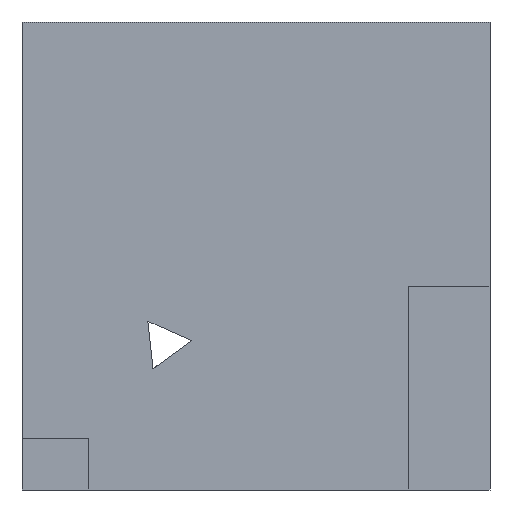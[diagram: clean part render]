
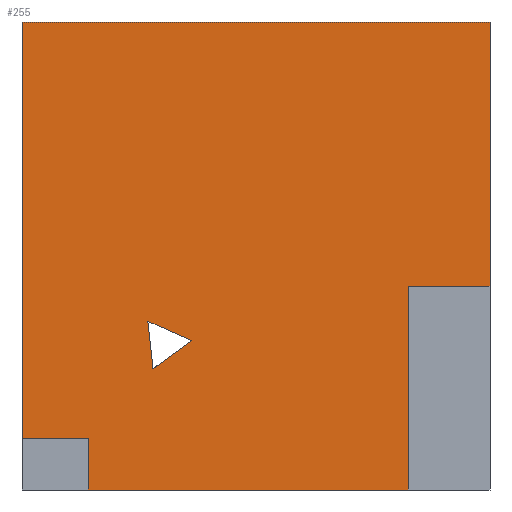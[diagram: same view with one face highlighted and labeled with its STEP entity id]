
A CAD part, front view. The second image highlights one B-rep face of the part: STEP entity #255.
In plain terms, the highlighted planar face has unit normal (0, -1, 0).
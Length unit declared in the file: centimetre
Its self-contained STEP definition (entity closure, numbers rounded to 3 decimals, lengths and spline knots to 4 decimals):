
#2 = CARTESIAN_POINT ( 'NONE',  ( 141.4676, 0., 0. ) ) ;
#27 = VECTOR ( 'NONE', #434, 100. ) ;
#34 = DIRECTION ( 'NONE',  ( -1., 0., 0. ) ) ;
#45 = VECTOR ( 'NONE', #34, 100. ) ;
#46 = VERTEX_POINT ( 'NONE', #860 ) ;
#66 = VECTOR ( 'NONE', #334, 100. ) ;
#96 = CARTESIAN_POINT ( 'NONE',  ( 0., 0., 1000. ) ) ;
#98 = CARTESIAN_POINT ( 'NONE',  ( 1000., 0., 1000. ) ) ;
#111 = VECTOR ( 'NONE', #829, 100. ) ;
#117 = CARTESIAN_POINT ( 'NONE',  ( 268.936, 0., 360.6865 ) ) ;
#118 = CARTESIAN_POINT ( 'NONE',  ( 0., 0., 110.0055 ) ) ;
#123 = DIRECTION ( 'NONE',  ( 1., 0., 0. ) ) ;
#126 = ORIENTED_EDGE ( 'NONE', *, *, #594, .T. ) ;
#138 = EDGE_CURVE ( 'NONE', #297, #145, #640, .T. ) ;
#145 = VERTEX_POINT ( 'NONE', #636 ) ;
#152 = ORIENTED_EDGE ( 'NONE', *, *, #727, .T. ) ;
#161 = DIRECTION ( 'NONE',  ( 0.808, 0., 0.59 ) ) ;
#198 = CARTESIAN_POINT ( 'NONE',  ( 0., 0., 1000. ) ) ;
#213 = CARTESIAN_POINT ( 'NONE',  ( 268.936, 0., 360.6865 ) ) ;
#220 = CARTESIAN_POINT ( 'NONE',  ( 0., 0., 1000. ) ) ;
#234 = FACE_OUTER_BOUND ( 'NONE', #629, .T. ) ;
#255 = ADVANCED_FACE ( 'NONE', ( #644, #234 ), #787, .F. ) ;
#262 = CARTESIAN_POINT ( 'NONE',  ( 279.872, 0., 258.806 ) ) ;
#267 = VERTEX_POINT ( 'NONE', #409 ) ;
#297 = VERTEX_POINT ( 'NONE', #262 ) ;
#304 = LINE ( 'NONE', #944, #763 ) ;
#314 = VECTOR ( 'NONE', #989, 100. ) ;
#334 = DIRECTION ( 'NONE',  ( 0., 0., 1. ) ) ;
#341 = VECTOR ( 'NONE', #494, 100. ) ;
#348 = CARTESIAN_POINT ( 'NONE',  ( 825.4087, 0., 435.6288 ) ) ;
#355 = EDGE_CURVE ( 'NONE', #776, #600, #574, .T. ) ;
#360 = ORIENTED_EDGE ( 'NONE', *, *, #717, .F. ) ;
#372 = EDGE_CURVE ( 'NONE', #770, #297, #970, .T. ) ;
#377 = VECTOR ( 'NONE', #1027, 100. ) ;
#388 = ORIENTED_EDGE ( 'NONE', *, *, #544, .F. ) ;
#389 = LINE ( 'NONE', #706, #377 ) ;
#409 = CARTESIAN_POINT ( 'NONE',  ( 141.4676, 0., 110.0055 ) ) ;
#416 = DIRECTION ( 'NONE',  ( 0., 0., 1. ) ) ;
#417 = ORIENTED_EDGE ( 'NONE', *, *, #1016, .F. ) ;
#424 = CARTESIAN_POINT ( 'NONE',  ( 0., 0., 0. ) ) ;
#432 = EDGE_CURVE ( 'NONE', #921, #267, #898, .T. ) ;
#434 = DIRECTION ( 'NONE',  ( 0.107, 0., -0.994 ) ) ;
#440 = CARTESIAN_POINT ( 'NONE',  ( 1000., 0., 435.6288 ) ) ;
#460 = AXIS2_PLACEMENT_3D ( 'NONE', #220, #888, #416 ) ;
#468 = EDGE_CURVE ( 'NONE', #145, #770, #559, .T. ) ;
#478 = EDGE_LOOP ( 'NONE', ( #911, #495, #838 ) ) ;
#494 = DIRECTION ( 'NONE',  ( 0., 0., -1. ) ) ;
#495 = ORIENTED_EDGE ( 'NONE', *, *, #372, .F. ) ;
#498 = CARTESIAN_POINT ( 'NONE',  ( 362.6351, 0., 319.2172 ) ) ;
#504 = CARTESIAN_POINT ( 'NONE',  ( 825.4087, 0., 435.6288 ) ) ;
#537 = ORIENTED_EDGE ( 'NONE', *, *, #577, .F. ) ;
#544 = EDGE_CURVE ( 'NONE', #942, #958, #677, .T. ) ;
#559 = LINE ( 'NONE', #498, #920 ) ;
#574 = LINE ( 'NONE', #98, #341 ) ;
#577 = EDGE_CURVE ( 'NONE', #267, #46, #751, .T. ) ;
#594 = EDGE_CURVE ( 'NONE', #921, #958, #837, .T. ) ;
#600 = VERTEX_POINT ( 'NONE', #440 ) ;
#629 = EDGE_LOOP ( 'NONE', ( #152, #537, #675, #126, #388, #360, #934, #417 ) ) ;
#636 = CARTESIAN_POINT ( 'NONE',  ( 362.6351, 0., 319.2172 ) ) ;
#640 = LINE ( 'NONE', #957, #1037 ) ;
#644 = FACE_BOUND ( 'NONE', #478, .T. ) ;
#675 = ORIENTED_EDGE ( 'NONE', *, *, #432, .F. ) ;
#676 = CARTESIAN_POINT ( 'NONE',  ( 141.4676, 0., 0. ) ) ;
#677 = LINE ( 'NONE', #348, #111 ) ;
#706 = CARTESIAN_POINT ( 'NONE',  ( 825.4087, 0., 435.6288 ) ) ;
#717 = EDGE_CURVE ( 'NONE', #600, #942, #389, .T. ) ;
#727 = EDGE_CURVE ( 'NONE', #871, #46, #304, .T. ) ;
#751 = LINE ( 'NONE', #118, #45 ) ;
#763 = VECTOR ( 'NONE', #1013, 100. ) ;
#770 = VERTEX_POINT ( 'NONE', #213 ) ;
#776 = VERTEX_POINT ( 'NONE', #1021 ) ;
#787 = PLANE ( 'NONE',  #460 ) ;
#821 = DIRECTION ( 'NONE',  ( -0.914, 0., 0.405 ) ) ;
#829 = DIRECTION ( 'NONE',  ( 0., 0., -1. ) ) ;
#835 = CARTESIAN_POINT ( 'NONE',  ( 825.4087, 0., 0. ) ) ;
#837 = LINE ( 'NONE', #424, #904 ) ;
#838 = ORIENTED_EDGE ( 'NONE', *, *, #468, .F. ) ;
#860 = CARTESIAN_POINT ( 'NONE',  ( 0., 0., 110.0055 ) ) ;
#871 = VERTEX_POINT ( 'NONE', #96 ) ;
#888 = DIRECTION ( 'NONE',  ( 0., 1., 0. ) ) ;
#898 = LINE ( 'NONE', #2, #66 ) ;
#904 = VECTOR ( 'NONE', #123, 100. ) ;
#911 = ORIENTED_EDGE ( 'NONE', *, *, #138, .F. ) ;
#920 = VECTOR ( 'NONE', #821, 100. ) ;
#921 = VERTEX_POINT ( 'NONE', #676 ) ;
#934 = ORIENTED_EDGE ( 'NONE', *, *, #355, .F. ) ;
#942 = VERTEX_POINT ( 'NONE', #504 ) ;
#944 = CARTESIAN_POINT ( 'NONE',  ( 0., 0., 1000. ) ) ;
#957 = CARTESIAN_POINT ( 'NONE',  ( 279.872, 0., 258.806 ) ) ;
#958 = VERTEX_POINT ( 'NONE', #835 ) ;
#970 = LINE ( 'NONE', #117, #27 ) ;
#989 = DIRECTION ( 'NONE',  ( 1., 0., 0. ) ) ;
#998 = LINE ( 'NONE', #198, #314 ) ;
#1013 = DIRECTION ( 'NONE',  ( 0., 0., -1. ) ) ;
#1016 = EDGE_CURVE ( 'NONE', #871, #776, #998, .T. ) ;
#1021 = CARTESIAN_POINT ( 'NONE',  ( 1000., 0., 1000. ) ) ;
#1027 = DIRECTION ( 'NONE',  ( -1., 0., 0. ) ) ;
#1037 = VECTOR ( 'NONE', #161, 100. ) ;
